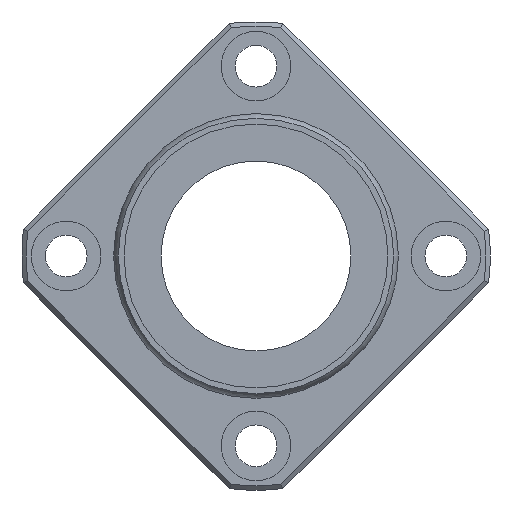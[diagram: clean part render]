
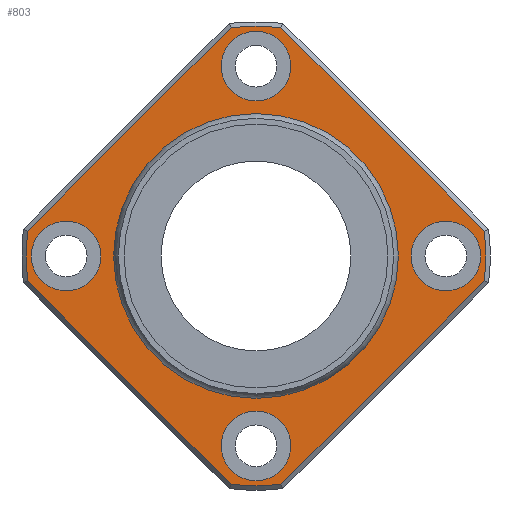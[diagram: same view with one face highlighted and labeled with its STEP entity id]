
A CAD part, left-side view. The second image highlights one B-rep face of the part: STEP entity #803.
In plain terms, the highlighted planar face has unit normal (-1, 0, 0).
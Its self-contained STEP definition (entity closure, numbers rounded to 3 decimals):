
#498=CARTESIAN_POINT('',(61.5,-3.936,-36.086));
#499=VERTEX_POINT('',#498);
#507=CARTESIAN_POINT('',(61.5,3.936,-36.086));
#508=VERTEX_POINT('',#507);
#509=CARTESIAN_POINT('',(61.5,0.0,0.0));
#510=DIRECTION('',(1.0,0.0,0.0));
#511=DIRECTION('',(0.0,0.0,-1.0));
#512=AXIS2_PLACEMENT_3D('',#509,#510,#511);
#513=CIRCLE('',#512,36.3);
#514=EDGE_CURVE('',#499,#508,#513,.T.);
#540=CARTESIAN_POINT('',(61.5,36.086,-3.936));
#541=VERTEX_POINT('',#540);
#542=CARTESIAN_POINT('',(61.5,3.936,-36.086));
#543=DIRECTION('',(0.0,0.707,0.707));
#544=VECTOR('',#543,45.466);
#545=LINE('',#542,#544);
#546=EDGE_CURVE('',#508,#541,#545,.T.);
#573=CARTESIAN_POINT('',(61.5,36.086,3.936));
#574=VERTEX_POINT('',#573);
#575=CARTESIAN_POINT('',(61.5,0.0,0.0));
#576=DIRECTION('',(1.0,0.0,0.0));
#577=DIRECTION('',(0.0,0.0,1.0));
#578=AXIS2_PLACEMENT_3D('',#575,#576,#577);
#579=CIRCLE('',#578,36.3);
#580=EDGE_CURVE('',#541,#574,#579,.T.);
#604=CARTESIAN_POINT('',(61.5,3.936,36.086));
#605=VERTEX_POINT('',#604);
#606=CARTESIAN_POINT('',(61.5,36.086,3.936));
#607=DIRECTION('',(0.0,-0.707,0.707));
#608=VECTOR('',#607,45.466);
#609=LINE('',#606,#608);
#610=EDGE_CURVE('',#574,#605,#609,.T.);
#629=CARTESIAN_POINT('',(61.5,-3.936,36.086));
#630=VERTEX_POINT('',#629);
#631=CARTESIAN_POINT('',(61.5,0.0,0.0));
#632=DIRECTION('',(1.0,0.0,0.0));
#633=DIRECTION('',(0.0,0.0,1.0));
#634=AXIS2_PLACEMENT_3D('',#631,#632,#633);
#635=CIRCLE('',#634,36.3);
#636=EDGE_CURVE('',#605,#630,#635,.T.);
#655=CARTESIAN_POINT('',(61.5,-36.086,3.936));
#656=VERTEX_POINT('',#655);
#657=CARTESIAN_POINT('',(61.5,-3.936,36.086));
#658=DIRECTION('',(0.0,-0.707,-0.707));
#659=VECTOR('',#658,45.466);
#660=LINE('',#657,#659);
#661=EDGE_CURVE('',#630,#656,#660,.T.);
#680=CARTESIAN_POINT('',(61.5,-36.086,-3.936));
#681=VERTEX_POINT('',#680);
#682=CARTESIAN_POINT('',(61.5,0.0,0.0));
#683=DIRECTION('',(1.0,0.0,0.0));
#684=DIRECTION('',(0.0,0.0,1.0));
#685=AXIS2_PLACEMENT_3D('',#682,#683,#684);
#686=CIRCLE('',#685,36.3);
#687=EDGE_CURVE('',#656,#681,#686,.T.);
#706=CARTESIAN_POINT('',(61.5,-36.086,-3.936));
#707=DIRECTION('',(0.0,0.707,-0.707));
#708=VECTOR('',#707,45.466);
#709=LINE('',#706,#708);
#710=EDGE_CURVE('',#681,#499,#709,.T.);
#733=CARTESIAN_POINT('',(61.5,0.0,29.563));
#734=DIRECTION('',(-1.0,0.0,0.0));
#735=DIRECTION('',(0.0,0.0,1.0));
#736=AXIS2_PLACEMENT_3D('',#733,#734,#735);
#737=PLANE('',#736);
#738=ORIENTED_EDGE('',*,*,#514,.F.);
#739=ORIENTED_EDGE('',*,*,#710,.F.);
#740=ORIENTED_EDGE('',*,*,#687,.F.);
#741=ORIENTED_EDGE('',*,*,#661,.F.);
#742=ORIENTED_EDGE('',*,*,#636,.F.);
#743=ORIENTED_EDGE('',*,*,#610,.F.);
#744=ORIENTED_EDGE('',*,*,#580,.F.);
#745=ORIENTED_EDGE('',*,*,#546,.F.);
#746=EDGE_LOOP('',(#738,#739,#740,#741,#742,#743,#744,#745));
#747=FACE_OUTER_BOUND('',#746,.T.);
#748=CARTESIAN_POINT('',(61.5,0.0,22.127));
#749=VERTEX_POINT('',#748);
#750=CARTESIAN_POINT('',(61.5,0.0,0.0));
#751=DIRECTION('',(-1.0,0.0,0.0));
#752=DIRECTION('',(0.0,0.0,1.0));
#753=AXIS2_PLACEMENT_3D('',#750,#751,#752);
#754=CIRCLE('',#753,22.127);
#755=EDGE_CURVE('',#749,#749,#754,.T.);
#756=ORIENTED_EDGE('',*,*,#755,.F.);
#757=EDGE_LOOP('',(#756));
#758=FACE_BOUND('',#757,.T.);
#759=CARTESIAN_POINT('',(61.5,-24.5,0.));
#760=VERTEX_POINT('',#759);
#761=CARTESIAN_POINT('',(61.5,-30.0,0.));
#762=DIRECTION('',(1.0,0.0,0.0));
#763=DIRECTION('',(0.0,1.0,0.0));
#764=AXIS2_PLACEMENT_3D('',#761,#762,#763);
#765=CIRCLE('',#764,5.5);
#766=EDGE_CURVE('',#760,#760,#765,.T.);
#767=ORIENTED_EDGE('',*,*,#766,.T.);
#768=EDGE_LOOP('',(#767));
#769=FACE_BOUND('',#768,.T.);
#770=CARTESIAN_POINT('',(61.5,35.5,0.));
#771=VERTEX_POINT('',#770);
#772=CARTESIAN_POINT('',(61.5,30.0,0.));
#773=DIRECTION('',(1.0,0.0,0.0));
#774=DIRECTION('',(0.0,1.0,0.0));
#775=AXIS2_PLACEMENT_3D('',#772,#773,#774);
#776=CIRCLE('',#775,5.5);
#777=EDGE_CURVE('',#771,#771,#776,.T.);
#778=ORIENTED_EDGE('',*,*,#777,.T.);
#779=EDGE_LOOP('',(#778));
#780=FACE_BOUND('',#779,.T.);
#781=CARTESIAN_POINT('',(61.5,5.5,30.0));
#782=VERTEX_POINT('',#781);
#783=CARTESIAN_POINT('',(61.5,0.,30.0));
#784=DIRECTION('',(1.0,0.0,0.0));
#785=DIRECTION('',(0.0,1.0,0.0));
#786=AXIS2_PLACEMENT_3D('',#783,#784,#785);
#787=CIRCLE('',#786,5.5);
#788=EDGE_CURVE('',#782,#782,#787,.T.);
#789=ORIENTED_EDGE('',*,*,#788,.T.);
#790=EDGE_LOOP('',(#789));
#791=FACE_BOUND('',#790,.T.);
#792=CARTESIAN_POINT('',(61.5,5.5,-30.0));
#793=VERTEX_POINT('',#792);
#794=CARTESIAN_POINT('',(61.5,0.,-30.0));
#795=DIRECTION('',(1.0,0.0,0.0));
#796=DIRECTION('',(0.0,1.0,0.0));
#797=AXIS2_PLACEMENT_3D('',#794,#795,#796);
#798=CIRCLE('',#797,5.5);
#799=EDGE_CURVE('',#793,#793,#798,.T.);
#800=ORIENTED_EDGE('',*,*,#799,.T.);
#801=EDGE_LOOP('',(#800));
#802=FACE_BOUND('',#801,.T.);
#803=ADVANCED_FACE('',(#747,#758,#769,#780,#791,#802),#737,.T.);
